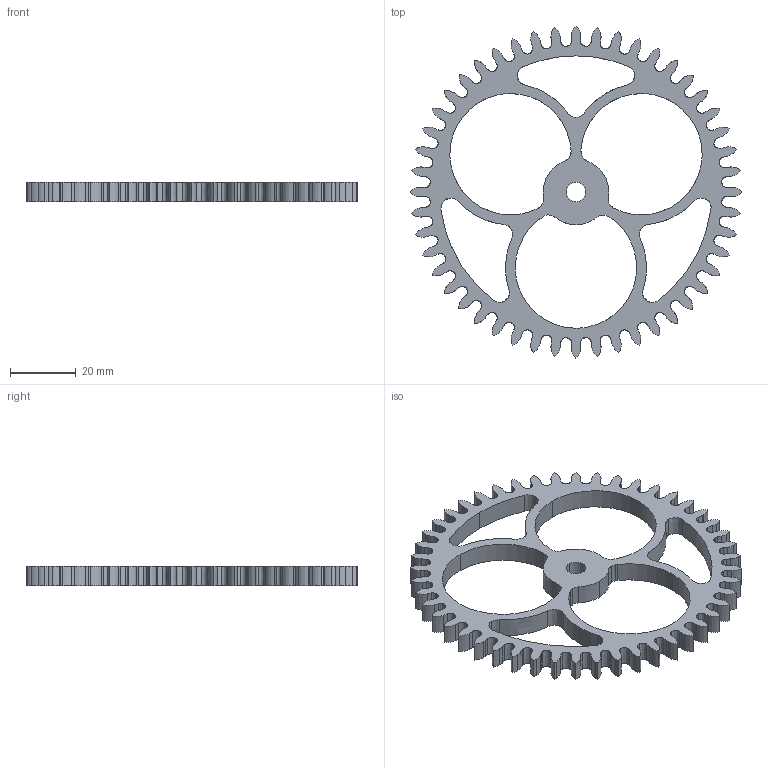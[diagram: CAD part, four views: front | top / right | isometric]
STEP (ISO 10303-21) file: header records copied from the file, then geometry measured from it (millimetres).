
FILE_DESCRIPTION(('FreeCAD Model'),'2;1');
FILE_NAME('C:/users/Gunther/Documents/CAD/Zahnräder/Z48_M2.step', '2015-06-20T16:18:03',('Author'),(''), 'Open CASCADE STEP processor 6.8','FreeCAD','Unknown');
FILE_SCHEMA(('AUTOMOTIVE_DESIGN_CC2 { 1 2 10303 214 -1 1 5 4 }'));
Length unit declared in the file: millimetre
Products named in the file (1): Cut006
Bounding box: 101.21 x 101.21 x 6 mm (x, y, z)
Volume: 16211.6 mm3; surface area: 13443.8 mm2
Topology: 1 solids, 1 shells, 426 faces, 1272 edges, 848 vertices
Faces by surface type: extrusion 318, plane 104, cylinder 4
Entity records: 32859 total; most frequent: CARTESIAN_POINT 9909, DIRECTION 3080, VECTOR 2846, ORIENTED_EDGE 2544, PCURVE 2544, DEFINITIONAL_REPRESENTATION 2544, LINE 2528, B_SPLINE_CURVE_WITH_KNOTS 1590
